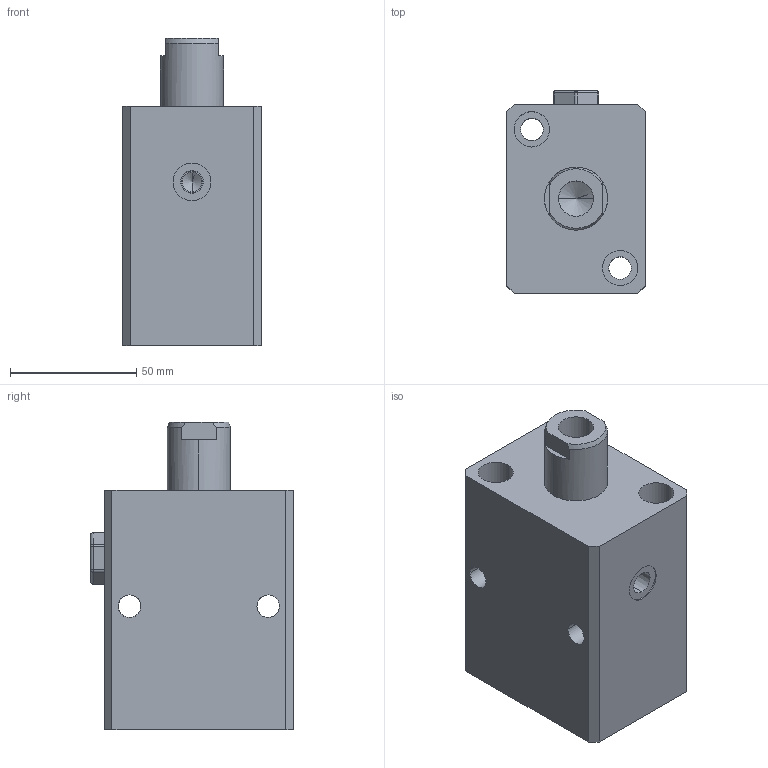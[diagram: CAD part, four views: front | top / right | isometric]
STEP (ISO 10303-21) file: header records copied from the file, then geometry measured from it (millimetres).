
FILE_DESCRIPTION (( 'STEP AP203' ), '1' );
FILE_NAME ('4510 321.STEP', '2016-01-29T10:11:10', ( '' ), ( '' ), 'SwSTEP 2.0', 'SolidWorks 2015', '' );
FILE_SCHEMA (( 'CONFIG_CONTROL_DESIGN' ));
Length unit declared in the file: millimetre
Products named in the file (1): 4510 321
Bounding box: 55 x 80.5 x 122 mm (x, y, z)
Volume: 374654.7 mm3; surface area: 45706.1 mm2
Topology: 1 solids, 2 shells, 102 faces, 247 edges, 144 vertices
Faces by surface type: cylinder 49, plane 31, cone 16, sphere 6
Entity records: 2968 total; most frequent: CARTESIAN_POINT 540, DIRECTION 519, ORIENTED_EDGE 466, EDGE_CURVE 233, AXIS2_PLACEMENT_3D 203, VERTEX_POINT 144, EDGE_LOOP 123, VECTOR 113
